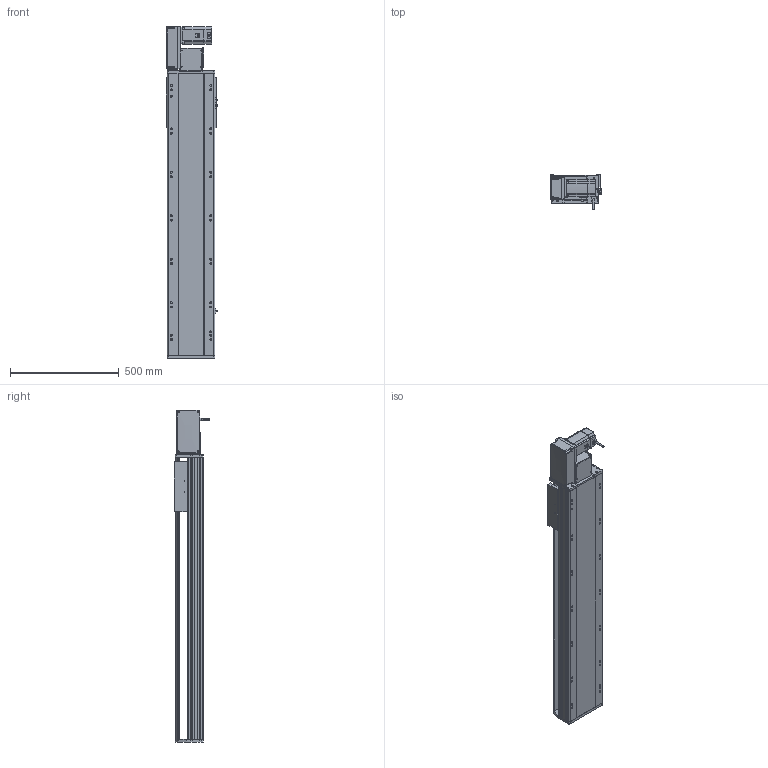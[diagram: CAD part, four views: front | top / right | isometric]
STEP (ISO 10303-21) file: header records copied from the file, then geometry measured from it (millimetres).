
FILE_DESCRIPTION (( 'STEP AP214' ), '1' );
FILE_NAME ('RTB22S-XX-950-L-M75-C4.STEP', '2025-12-12T03:16:30', ( '' ), ( '' ), 'SwSTEP 2.0', 'SolidWorks 2018', '' );
FILE_SCHEMA (( 'AUTOMOTIVE_DESIGN' ));
Length unit declared in the file: millimetre
Products named in the file (14): RTB22S-L-011菁釱^RTB22S-XX-XX-L-M75-C4; RTB22S-L-々湍釱蚾饜^RTB22S-XX-XX-L-M75-C4; RTB22S-GY-014--々湍釱^RTB22S-L-々湍釱蚾饜_RTB22S-XX-XX-L-M75-C4; RTB22S-GY-001耜裔^RTB22S-XX-XX-L-M75-C4; RTB22S-GY-018P^RTB22S-L-々湍釱蚾饜_RTB22S-XX-XX-L-M75-C4; RTH22-GY-013外置感应片^RTB22S-XX-XX-L-M75-C4; RTB22S-GY-008-M75--萇儂啣^RTB22S-L-々湍釱蚾饜_RTB22S-XX-XX-L-M75-C4; 750W萇儂^RTB22S-XX-XX-L-M75-C4; RTB22S-XX-950-L-M75-C4; RTB22S-GY-005P^RTB22S-L-々湍釱蚾饜_RTB22S-XX-XX-L-M75-C4; OMRON EE-SX672 传感器^RTB22S-XX-XX-L-M75-C4; RTB22S-L-004賑釱^RTB22S-XX-XX-L-M75-C4; RTB22S-GY-007奻裔^RTB22S-XX-XX-L-M75-C4; RTB22S-GY-017P^RTB22S-L-々湍釱蚾饜_RTB22S-XX-XX-L-M75-C4
Assembly tree (16 placements, depth 3):
  RTB22S-XX-950-L-M75-C4
    RTB22S-L-011菁釱^RTB22S-XX-XX-L-M75-C4
    750W萇儂^RTB22S-XX-XX-L-M75-C4
    RTB22S-L-004賑釱^RTB22S-XX-XX-L-M75-C4
    OMRON EE-SX672 传感器^RTB22S-XX-XX-L-M75-C4  x3
    RTH22-GY-013外置感应片^RTB22S-XX-XX-L-M75-C4
    RTB22S-GY-007奻裔^RTB22S-XX-XX-L-M75-C4
    RTB22S-GY-001耜裔^RTB22S-XX-XX-L-M75-C4
    RTB22S-L-々湍釱蚾饜^RTB22S-XX-XX-L-M75-C4
      RTB22S-GY-014--々湍釱^RTB22S-L-々湍釱蚾饜_RTB22S-XX-XX-L-M75-C4
      RTB22S-GY-017P^RTB22S-L-々湍釱蚾饜_RTB22S-XX-XX-L-M75-C4  x2
      RTB22S-GY-005P^RTB22S-L-々湍釱蚾饜_RTB22S-XX-XX-L-M75-C4
      RTB22S-GY-008-M75--萇儂啣^RTB22S-L-々湍釱蚾饜_RTB22S-XX-XX-L-M75-C4
      RTB22S-GY-018P^RTB22S-L-々湍釱蚾饜_RTB22S-XX-XX-L-M75-C4
Bounding box: 238.5 x 162.7 x 1529 mm (x, y, z)
Volume: 20708030.6 mm3; surface area: 2157655.4 mm2
Topology: 15 solids, 15 shells, 1965 faces, 5336 edges, 3422 vertices
Faces by surface type: plane 913, cylinder 610, bspline 296, cone 134, sphere 8, torus 4
Entity records: 52110 total; most frequent: CARTESIAN_POINT 15024, ORIENTED_EDGE 7468, DIRECTION 7168, EDGE_CURVE 3734, AXIS2_PLACEMENT_3D 2522, VERTEX_POINT 2426, LINE 2124, VECTOR 2124
